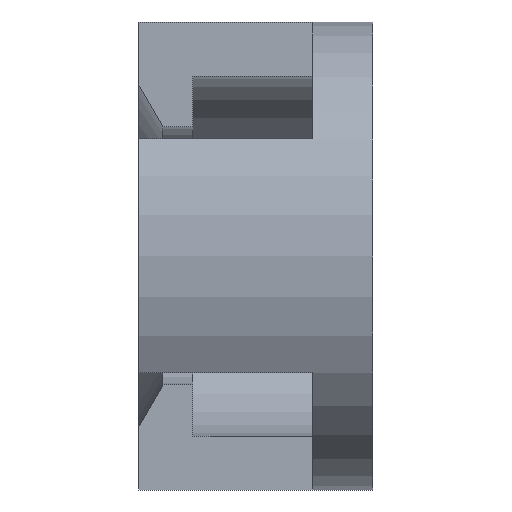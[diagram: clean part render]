
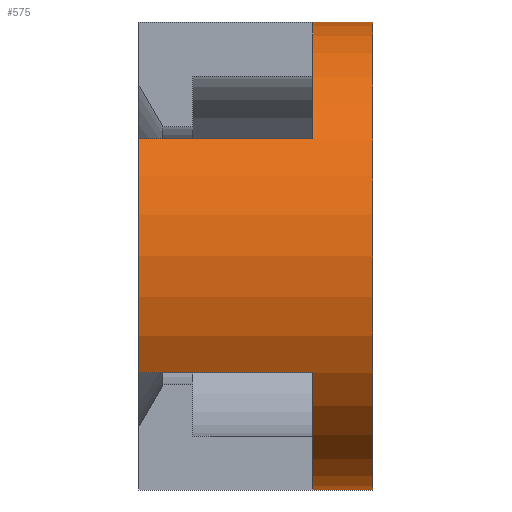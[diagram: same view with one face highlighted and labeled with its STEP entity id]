
A CAD part, front view. The second image highlights one B-rep face of the part: STEP entity #575.
In plain terms, the highlighted cylindrical face has radius 7.8 mm (diameter 15.6 mm), a partial arc.
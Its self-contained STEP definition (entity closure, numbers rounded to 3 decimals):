
#48=AXIS2_PLACEMENT_3D('Circle Axis2P3D',#46,#47,$) ;
#55=AXIS2_PLACEMENT_3D('Circle Axis2P3D',#53,#54,$) ;
#62=AXIS2_PLACEMENT_3D('Circle Axis2P3D',#60,#61,$) ;
#69=AXIS2_PLACEMENT_3D('Circle Axis2P3D',#67,#68,$) ;
#76=AXIS2_PLACEMENT_3D('Circle Axis2P3D',#74,#75,$) ;
#375=AXIS2_PLACEMENT_3D('Cylinder Axis2P3D',#372,#373,#374) ;
#393=AXIS2_PLACEMENT_3D('Circle Axis2P3D',#391,#392,$) ;
#432=AXIS2_PLACEMENT_3D('Circle Axis2P3D',#430,#431,$) ;
#449=AXIS2_PLACEMENT_3D('Circle Axis2P3D',#447,#448,$) ;
#468=AXIS2_PLACEMENT_3D('Circle Axis2P3D',#466,#467,$) ;
#505=AXIS2_PLACEMENT_3D('Circle Axis2P3D',#503,#504,$) ;
#524=AXIS2_PLACEMENT_3D('Circle Axis2P3D',#522,#523,$) ;
#543=AXIS2_PLACEMENT_3D('Circle Axis2P3D',#541,#542,$) ;
#41=CARTESIAN_POINT('Vertex',(2.,7.8,0.)) ;
#43=CARTESIAN_POINT('Vertex',(2.,3.9,6.755)) ;
#46=CARTESIAN_POINT('Axis2P3D Location',(2.,0.,0.)) ;
#50=CARTESIAN_POINT('Vertex',(2.,-3.9,6.755)) ;
#53=CARTESIAN_POINT('Axis2P3D Location',(2.,0.,0.)) ;
#57=CARTESIAN_POINT('Vertex',(2.,-7.8,0.)) ;
#60=CARTESIAN_POINT('Axis2P3D Location',(2.,0.,0.)) ;
#64=CARTESIAN_POINT('Vertex',(2.,-3.9,-6.755)) ;
#67=CARTESIAN_POINT('Axis2P3D Location',(2.,0.,0.)) ;
#71=CARTESIAN_POINT('Vertex',(2.,3.9,-6.755)) ;
#74=CARTESIAN_POINT('Axis2P3D Location',(2.,0.,0.)) ;
#372=CARTESIAN_POINT('Axis2P3D Location',(1.,0.,0.)) ;
#377=CARTESIAN_POINT('Line Origine',(-2.4,7.8,0.)) ;
#381=CARTESIAN_POINT('Vertex',(0.,7.8,0.)) ;
#388=CARTESIAN_POINT('Vertex',(0.,6.755,3.9)) ;
#391=CARTESIAN_POINT('Axis2P3D Location',(0.,0.,0.)) ;
#395=CARTESIAN_POINT('Vertex',(0.,3.9,6.755)) ;
#398=CARTESIAN_POINT('Line Origine',(-2.4,3.9,6.755)) ;
#420=CARTESIAN_POINT('Vertex',(0.,-6.755,-3.9)) ;
#427=CARTESIAN_POINT('Vertex',(0.,-6.755,3.9)) ;
#430=CARTESIAN_POINT('Axis2P3D Location',(0.,0.,0.)) ;
#434=CARTESIAN_POINT('Vertex',(0.,0.,7.8)) ;
#447=CARTESIAN_POINT('Axis2P3D Location',(0.,0.,0.)) ;
#451=CARTESIAN_POINT('Vertex',(0.,6.755,-3.9)) ;
#463=CARTESIAN_POINT('Vertex',(0.,0.,-7.8)) ;
#466=CARTESIAN_POINT('Axis2P3D Location',(0.,0.,0.)) ;
#496=CARTESIAN_POINT('Line Origine',(-2.4,0.,-7.8)) ;
#500=CARTESIAN_POINT('Vertex',(-5.8,0.,-7.8)) ;
#503=CARTESIAN_POINT('Axis2P3D Location',(-5.8,0.,0.)) ;
#507=CARTESIAN_POINT('Vertex',(-5.8,6.755,-3.9)) ;
#510=CARTESIAN_POINT('Line Origine',(-2.4,6.755,-3.9)) ;
#515=CARTESIAN_POINT('Line Origine',(-2.4,6.755,3.9)) ;
#519=CARTESIAN_POINT('Vertex',(-5.8,6.755,3.9)) ;
#522=CARTESIAN_POINT('Axis2P3D Location',(-5.8,0.,0.)) ;
#526=CARTESIAN_POINT('Vertex',(-5.8,0.,7.8)) ;
#529=CARTESIAN_POINT('Line Origine',(-2.4,0.,7.8)) ;
#534=CARTESIAN_POINT('Line Origine',(-2.4,-6.755,3.9)) ;
#538=CARTESIAN_POINT('Vertex',(-5.8,-6.755,3.9)) ;
#541=CARTESIAN_POINT('Axis2P3D Location',(-5.8,0.,0.)) ;
#545=CARTESIAN_POINT('Vertex',(-5.8,-6.755,-3.9)) ;
#548=CARTESIAN_POINT('Line Origine',(-2.4,-6.755,-3.9)) ;
#47=DIRECTION('Axis2P3D Direction',(1.,0.,0.)) ;
#54=DIRECTION('Axis2P3D Direction',(1.,0.,0.)) ;
#61=DIRECTION('Axis2P3D Direction',(1.,0.,0.)) ;
#68=DIRECTION('Axis2P3D Direction',(1.,0.,0.)) ;
#75=DIRECTION('Axis2P3D Direction',(1.,0.,0.)) ;
#373=DIRECTION('Axis2P3D Direction',(1.,0.,0.)) ;
#374=DIRECTION('Axis2P3D XDirection',(0.,1.,0.)) ;
#378=DIRECTION('Vector Direction',(1.,0.,0.)) ;
#392=DIRECTION('Axis2P3D Direction',(1.,0.,0.)) ;
#399=DIRECTION('Vector Direction',(1.,0.,0.)) ;
#431=DIRECTION('Axis2P3D Direction',(1.,0.,0.)) ;
#448=DIRECTION('Axis2P3D Direction',(1.,0.,0.)) ;
#467=DIRECTION('Axis2P3D Direction',(1.,0.,0.)) ;
#497=DIRECTION('Vector Direction',(1.,0.,0.)) ;
#504=DIRECTION('Axis2P3D Direction',(1.,0.,0.)) ;
#511=DIRECTION('Vector Direction',(1.,0.,0.)) ;
#516=DIRECTION('Vector Direction',(1.,0.,0.)) ;
#523=DIRECTION('Axis2P3D Direction',(1.,0.,0.)) ;
#530=DIRECTION('Vector Direction',(1.,0.,0.)) ;
#535=DIRECTION('Vector Direction',(1.,0.,0.)) ;
#542=DIRECTION('Axis2P3D Direction',(1.,0.,0.)) ;
#549=DIRECTION('Vector Direction',(1.,0.,0.)) ;
#379=VECTOR('Line Direction',#378,1.) ;
#400=VECTOR('Line Direction',#399,1.) ;
#498=VECTOR('Line Direction',#497,1.) ;
#512=VECTOR('Line Direction',#511,1.) ;
#517=VECTOR('Line Direction',#516,1.) ;
#531=VECTOR('Line Direction',#530,1.) ;
#536=VECTOR('Line Direction',#535,1.) ;
#550=VECTOR('Line Direction',#549,1.) ;
#554=ORIENTED_EDGE('',*,*,#502,.T.) ;
#555=ORIENTED_EDGE('',*,*,#509,.T.) ;
#556=ORIENTED_EDGE('',*,*,#514,.F.) ;
#557=ORIENTED_EDGE('',*,*,#453,.T.) ;
#558=ORIENTED_EDGE('',*,*,#383,.T.) ;
#559=ORIENTED_EDGE('',*,*,#78,.F.) ;
#560=ORIENTED_EDGE('',*,*,#73,.F.) ;
#561=ORIENTED_EDGE('',*,*,#66,.F.) ;
#562=ORIENTED_EDGE('',*,*,#59,.F.) ;
#563=ORIENTED_EDGE('',*,*,#52,.F.) ;
#564=ORIENTED_EDGE('',*,*,#402,.F.) ;
#565=ORIENTED_EDGE('',*,*,#397,.F.) ;
#566=ORIENTED_EDGE('',*,*,#521,.T.) ;
#567=ORIENTED_EDGE('',*,*,#528,.T.) ;
#568=ORIENTED_EDGE('',*,*,#533,.F.) ;
#569=ORIENTED_EDGE('',*,*,#436,.T.) ;
#570=ORIENTED_EDGE('',*,*,#540,.T.) ;
#571=ORIENTED_EDGE('',*,*,#547,.T.) ;
#572=ORIENTED_EDGE('',*,*,#552,.F.) ;
#573=ORIENTED_EDGE('',*,*,#470,.T.) ;
#575=ADVANCED_FACE('\X2\96F64EF651E04F554F53\X0\',(#574),#376,.T.) ;
#49=CIRCLE('generated circle',#48,7.8) ;
#56=CIRCLE('generated circle',#55,7.8) ;
#63=CIRCLE('generated circle',#62,7.8) ;
#70=CIRCLE('generated circle',#69,7.8) ;
#77=CIRCLE('generated circle',#76,7.8) ;
#394=CIRCLE('generated circle',#393,7.8) ;
#433=CIRCLE('generated circle',#432,7.8) ;
#450=CIRCLE('generated circle',#449,7.8) ;
#469=CIRCLE('generated circle',#468,7.8) ;
#506=CIRCLE('generated circle',#505,7.8) ;
#525=CIRCLE('generated circle',#524,7.8) ;
#544=CIRCLE('generated circle',#543,7.8) ;
#376=CYLINDRICAL_SURFACE('generated cylinder',#375,7.8) ;
#52=EDGE_CURVE('',#44,#51,#49,.T.) ;
#59=EDGE_CURVE('',#51,#58,#56,.T.) ;
#66=EDGE_CURVE('',#58,#65,#63,.T.) ;
#73=EDGE_CURVE('',#65,#72,#70,.T.) ;
#78=EDGE_CURVE('',#72,#42,#77,.T.) ;
#383=EDGE_CURVE('',#382,#42,#380,.T.) ;
#397=EDGE_CURVE('',#389,#396,#394,.T.) ;
#402=EDGE_CURVE('',#396,#44,#401,.T.) ;
#436=EDGE_CURVE('',#435,#428,#433,.T.) ;
#453=EDGE_CURVE('',#452,#382,#450,.T.) ;
#470=EDGE_CURVE('',#421,#464,#469,.T.) ;
#502=EDGE_CURVE('',#464,#501,#499,.F.) ;
#509=EDGE_CURVE('',#501,#508,#506,.T.) ;
#514=EDGE_CURVE('',#452,#508,#513,.F.) ;
#521=EDGE_CURVE('',#389,#520,#518,.F.) ;
#528=EDGE_CURVE('',#520,#527,#525,.T.) ;
#533=EDGE_CURVE('',#435,#527,#532,.F.) ;
#540=EDGE_CURVE('',#428,#539,#537,.F.) ;
#547=EDGE_CURVE('',#539,#546,#544,.T.) ;
#552=EDGE_CURVE('',#421,#546,#551,.F.) ;
#553=EDGE_LOOP('',(#554,#555,#556,#557,#558,#559,#560,#561,#562,#563,#564,#565,#566,#567,#568,#569,#570,#571,#572,#573)) ;
#574=FACE_OUTER_BOUND('',#553,.T.) ;
#380=LINE('Line',#377,#379) ;
#401=LINE('Line',#398,#400) ;
#499=LINE('Line',#496,#498) ;
#513=LINE('Line',#510,#512) ;
#518=LINE('Line',#515,#517) ;
#532=LINE('Line',#529,#531) ;
#537=LINE('Line',#534,#536) ;
#551=LINE('Line',#548,#550) ;
#42=VERTEX_POINT('',#41) ;
#44=VERTEX_POINT('',#43) ;
#51=VERTEX_POINT('',#50) ;
#58=VERTEX_POINT('',#57) ;
#65=VERTEX_POINT('',#64) ;
#72=VERTEX_POINT('',#71) ;
#382=VERTEX_POINT('',#381) ;
#389=VERTEX_POINT('',#388) ;
#396=VERTEX_POINT('',#395) ;
#421=VERTEX_POINT('',#420) ;
#428=VERTEX_POINT('',#427) ;
#435=VERTEX_POINT('',#434) ;
#452=VERTEX_POINT('',#451) ;
#464=VERTEX_POINT('',#463) ;
#501=VERTEX_POINT('',#500) ;
#508=VERTEX_POINT('',#507) ;
#520=VERTEX_POINT('',#519) ;
#527=VERTEX_POINT('',#526) ;
#539=VERTEX_POINT('',#538) ;
#546=VERTEX_POINT('',#545) ;
